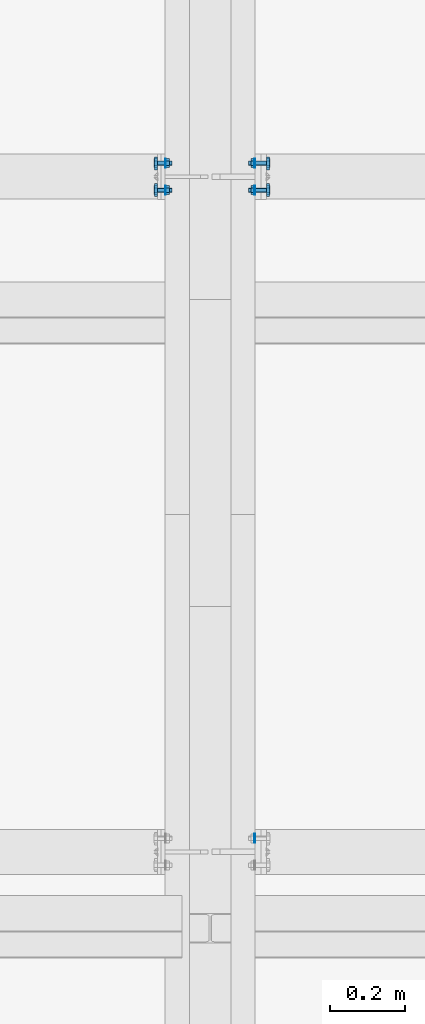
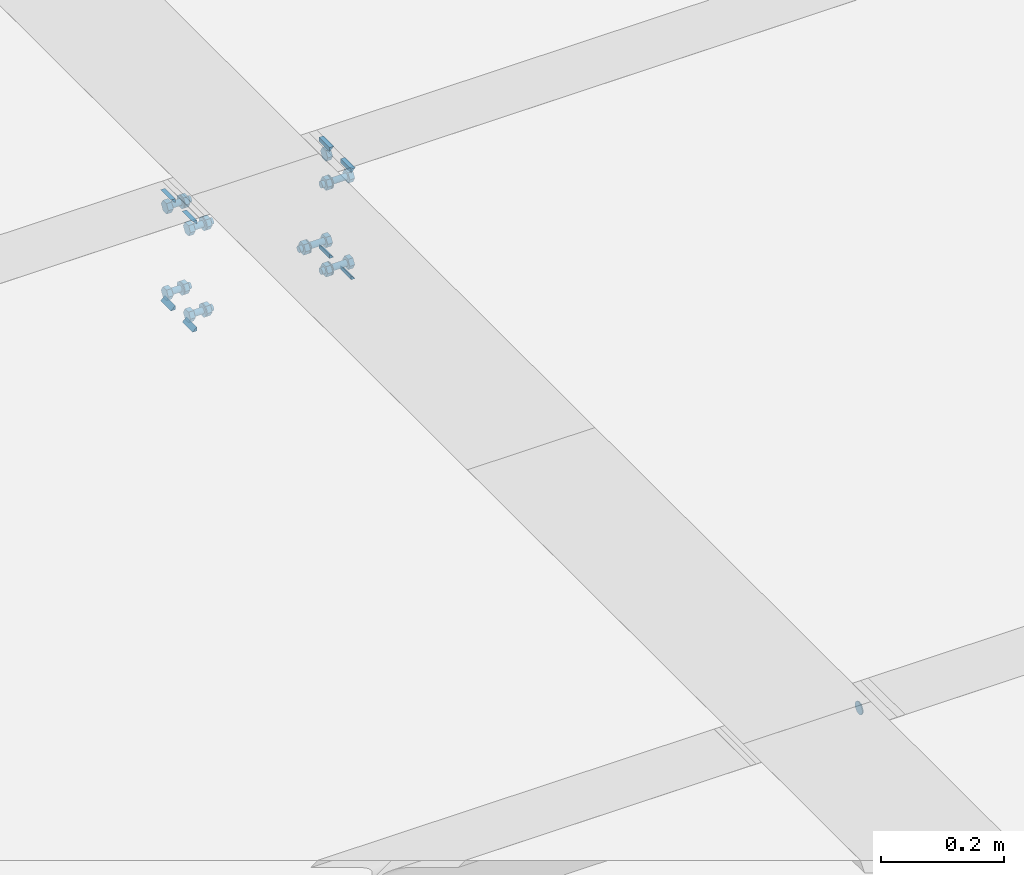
# One storey, part 53 of 66: 30 mechanical fasteners, 16 fasteners.
"""IFC4 building model written with IfcOpenShell, lengths in metres."""

from ifc_helpers import new_model, si_unit, frame, origin_with_axes, place, context, project, spatial, polyline, outline, extrude, type_object, element, save


model = new_model("IFC4")

# Units and contexts
model_context = context("Model", 3, precision=1e-05, world=origin_with_axes())
ifc_project = project(units=[si_unit("LENGTHUNIT", "METRE"), si_unit("AREAUNIT", "SQUARE_METRE"), si_unit("VOLUMEUNIT", "CUBIC_METRE"), si_unit("MASSUNIT", "GRAM", prefix="KILO"), si_unit("TIMEUNIT", "SECOND"), si_unit("PLANEANGLEUNIT", "RADIAN"), si_unit("SOLIDANGLEUNIT", "STERADIAN"), si_unit("THERMODYNAMICTEMPERATUREUNIT", "DEGREE_CELSIUS")], contexts=[model_context])

# Site, building, storey
placement_1 = place(None, origin_with_axes())
site = spatial("IfcSite", under=ifc_project, at=placement_1, Name="Italia", CompositionType="ELEMENT")
building = spatial("IfcBuilding", under=site, at=placement_1, Name="Uffici", CompositionType="ELEMENT")
storey_placement = place(None, frame((0.0, 0.0, 3.299999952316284), z_axis=(0.0, 0.0, 1.0), x_axis=(1.0, 0.0, 0.0)))
storey = spatial("IfcBuildingStorey", under=building, at=storey_placement, Name="Storey 1", CompositionType="ELEMENT", Elevation=3.299999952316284)

# Mechanical fastener
mechanical_fastener_type_1 = type_object("IfcMechanicalFastenerType", Name="Collegamento -004_-005", PredefinedType="BOLT")
placement_2 = place(placement_1, origin_with_axes())
mechanical_fastener_1_placement = place(placement_2, origin_with_axes())
element("IfcMechanicalFastener", 1, at=mechanical_fastener_1_placement, inside=storey, type_object=mechanical_fastener_type_1, Name="Collegamento -004_-005", NominalDiameter=0.024, context=model_context, shape_type="SweptSolid", body=[
    extrude(outline(polyline([(0.0, 0.0), (-0.000408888, -0.00310588), (-0.00160766, -0.00600004), (-0.00351465, -0.00848532), (-0.00599992, -0.0103922), (-0.00889409, -0.0115912), (-0.012, -0.0120001), (-0.0151058, -0.0115912), (-0.018, -0.0103922), (-0.0204853, -0.00848532), (-0.0223923, -0.00600004), (-0.023591, -0.00310588), (-0.0239999, 0.0), (-0.023591, 0.00310588), (-0.0223923, 0.00600004), (-0.0204853, 0.00848532), (-0.018, 0.0103922), (-0.0151058, 0.0115912), (-0.012, 0.0120001), (-0.00889409, 0.0115912), (-0.00599992, 0.0103922), (-0.00351465, 0.00848532), (-0.00160766, 0.00600004), (-0.000408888, 0.00310588), (0.0, 0.0)])), frame((9.573, 1.84467, 3.266), z_axis=(1.0, 0.0, 0.0), x_axis=(0.0, 1.0, 0.0)), (0.0, 0.0, 1.0), 0.00199986),
])

# Fasteners
fastener_type_1 = type_object("IfcFastenerType", Name="Collegamento -014_-013", PredefinedType="WELD")
fastener_1_placement = place(placement_2, origin_with_axes())
element("IfcFastener", 2, at=fastener_1_placement, inside=storey, type_object=fastener_type_1, Name="Collegamento -014_-013", context=model_context, shape_type="SweptSolid", body=[
    extrude(outline(polyline([(0.0, 0.0), (-0.00817299, 0.00792813), (0.0, 0.00792813), (0.0, 0.0)])), frame((9.31505, 3.57528, 3.28232), z_axis=(0.0, -1.0, 0.0), x_axis=(1.0, 0.0, 0.0)), (0.0, 0.0, 1.0), 0.0339999),
])
fastener_type_2 = type_object("IfcFastenerType", Name="Collegamento -014_-013", PredefinedType="WELD")
fastener_2_placement = place(placement_2, origin_with_axes())
element("IfcFastener", 3, at=fastener_2_placement, inside=storey, type_object=fastener_type_2, Name="Collegamento -014_-013", context=model_context, shape_type="SweptSolid", body=[
    extrude(outline(polyline([(0.0, 0.0), (0.00817299, -0.00792813), (0.0, -0.00792813), (0.0, 0.0)])), frame((9.31505, 3.54128, 3.07768), z_axis=(0.0, 1.0, 0.0), x_axis=(-1.0, 0.0, 0.0)), (0.0, 0.0, 1.0), 0.0339999),
])
fastener_type_3 = type_object("IfcFastenerType", Name="Collegamento -014_-013", PredefinedType="WELD")
fastener_3_placement = place(placement_2, origin_with_axes())
element("IfcFastener", 4, at=fastener_3_placement, inside=storey, type_object=fastener_type_3, Name="Collegamento -014_-013", context=model_context, shape_type="SweptSolid", body=[
    extrude(outline(polyline([(0.0, 0.0), (0.00817299, -0.00792813), (0.0, -0.00792813), (0.0, 0.0)])), frame((9.31505, 3.61138, 3.07768), z_axis=(0.0, 1.0, 0.0), x_axis=(-1.0, 0.0, 0.0)), (0.0, 0.0, 1.0), 0.0339999),
])
fastener_type_4 = type_object("IfcFastenerType", Name="Collegamento -014_-013", PredefinedType="WELD")
fastener_4_placement = place(placement_2, origin_with_axes())
element("IfcFastener", 5, at=fastener_4_placement, inside=storey, type_object=fastener_type_4, Name="Collegamento -014_-013", context=model_context, shape_type="SweptSolid", body=[
    extrude(outline(polyline([(0.0, 0.0), (-0.00817299, 0.00792813), (0.0, 0.00792813), (0.0, 0.0)])), frame((9.31505, 3.64538, 3.28232), z_axis=(0.0, -1.0, 0.0), x_axis=(1.0, 0.0, 0.0)), (0.0, 0.0, 1.0), 0.0339999),
])
fastener_type_5 = type_object("IfcFastenerType", Name="Collegamento -014_-013", PredefinedType="WELD")
fastener_5_placement = place(placement_2, origin_with_axes())
element("IfcFastener", 6, at=fastener_5_placement, inside=storey, type_object=fastener_type_5, Name="Collegamento -014_-013", context=model_context, shape_type="SweptSolid", body=[
    extrude(outline(polyline([(0.0, 0.0), (-0.00817299, 0.00792813), (0.0, 0.00792813), (0.0, 0.0)])), frame((9.31505, 3.57528, 3.28232), z_axis=(0.0, -1.0, 0.0), x_axis=(1.0, 0.0, 0.0)), (0.0, 0.0, 1.0), 0.0339999),
])
fastener_type_6 = type_object("IfcFastenerType", Name="Collegamento -014_-013", PredefinedType="WELD")
fastener_6_placement = place(placement_2, origin_with_axes())
element("IfcFastener", 7, at=fastener_6_placement, inside=storey, type_object=fastener_type_6, Name="Collegamento -014_-013", context=model_context, shape_type="SweptSolid", body=[
    extrude(outline(polyline([(0.0, 0.0), (0.00817299, -0.00792813), (0.0, -0.00792813), (0.0, 0.0)])), frame((9.31505, 3.54128, 3.07768), z_axis=(0.0, 1.0, 0.0), x_axis=(-1.0, 0.0, 0.0)), (0.0, 0.0, 1.0), 0.0339999),
])
fastener_type_7 = type_object("IfcFastenerType", Name="Collegamento -014_-013", PredefinedType="WELD")
fastener_7_placement = place(placement_2, origin_with_axes())
element("IfcFastener", 8, at=fastener_7_placement, inside=storey, type_object=fastener_type_7, Name="Collegamento -014_-013", context=model_context, shape_type="SweptSolid", body=[
    extrude(outline(polyline([(0.0, 0.0), (0.00817299, -0.00792813), (0.0, -0.00792813), (0.0, 0.0)])), frame((9.31505, 3.61138, 3.07768), z_axis=(0.0, 1.0, 0.0), x_axis=(-1.0, 0.0, 0.0)), (0.0, 0.0, 1.0), 0.0339999),
])
fastener_type_8 = type_object("IfcFastenerType", Name="Collegamento -014_-013", PredefinedType="WELD")
fastener_8_placement = place(placement_2, origin_with_axes())
element("IfcFastener", 9, at=fastener_8_placement, inside=storey, type_object=fastener_type_8, Name="Collegamento -014_-013", context=model_context, shape_type="SweptSolid", body=[
    extrude(outline(polyline([(0.0, 0.0), (-0.00817299, 0.00792813), (0.0, 0.00792813), (0.0, 0.0)])), frame((9.31505, 3.64538, 3.28232), z_axis=(0.0, -1.0, 0.0), x_axis=(1.0, 0.0, 0.0)), (0.0, 0.0, 1.0), 0.0339999),
])

# Mechanical fasteners
mechanical_fastener_type_2 = type_object("IfcMechanicalFastenerType", Name="Collegamento -014_-013", PredefinedType="BOLT")
mechanical_fastener_2_placement = place(placement_2, origin_with_axes())
element("IfcMechanicalFastener", 10, at=mechanical_fastener_2_placement, inside=storey, type_object=mechanical_fastener_type_2, Name="Collegamento -014_-013", NominalDiameter=0.0119999, context=model_context, shape_type="SweptSolid", body=[
    extrude(outline(polyline([(0.0, 0.0), (-0.0120001, 0.0), (-0.0180001, 0.0103924), (-0.0120001, 0.0207846), (0.0, 0.0207846), (0.00600004, 0.0103924), (0.0, 0.0)])), frame((9.315, 3.62333, 3.08361), z_axis=(-1.0, 0.0, 0.0), x_axis=(0.0, -1.0, 0.0)), (0.0, 0.0, 1.0), 0.00959969),
])
mechanical_fastener_type_3 = type_object("IfcMechanicalFastenerType", Name="Collegamento -014_-013", PredefinedType="BOLT")
mechanical_fastener_3_placement = place(placement_2, origin_with_axes())
element("IfcMechanicalFastener", 11, at=mechanical_fastener_3_placement, inside=storey, type_object=mechanical_fastener_type_3, Name="Collegamento -014_-013", NominalDiameter=0.012, context=model_context, shape_type="SweptSolid", body=[
    extrude(outline(polyline([(0.0, 0.0), (-0.000204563, -0.00155282), (-0.000803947, -0.00300002), (-0.00175738, -0.00424266), (-0.00300002, -0.00519609), (-0.00444722, -0.00579548), (-0.00600004, -0.00600004), (-0.00755286, -0.00579548), (-0.00900006, -0.00519609), (-0.0102427, -0.00424266), (-0.0111961, -0.00300002), (-0.0117955, -0.00155282), (-0.0120001, 0.0), (-0.0117955, 0.00155282), (-0.0111961, 0.00300002), (-0.0102427, 0.00424266), (-0.00900006, 0.00519609), (-0.00755286, 0.00579548), (-0.00600004, 0.00600004), (-0.00444722, 0.00579548), (-0.00300002, 0.00519609), (-0.00175738, 0.00424266), (-0.000803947, 0.00300002), (-0.000204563, 0.00155282), (0.0, 0.0)])), frame((9.353, 3.62333, 3.094), z_axis=(-1.0, 0.0, 0.0), x_axis=(0.0, -1.0, 0.0)), (0.0, 0.0, 1.0), 0.0380001),
])
mechanical_fastener_type_4 = type_object("IfcMechanicalFastenerType", Name="Collegamento -014_-013", PredefinedType="BOLT")
mechanical_fastener_4_placement = place(placement_2, origin_with_axes())
element("IfcMechanicalFastener", 12, at=mechanical_fastener_4_placement, inside=storey, type_object=mechanical_fastener_type_4, Name="Collegamento -014_-013", NominalDiameter=0.0119999, context=model_context, shape_type="SweptSolid", body=[
    extrude(outline(polyline([(0.0, 0.0), (-0.0120001, 0.0), (-0.0180001, 0.0103924), (-0.0120001, 0.0207846), (0.0, 0.0207846), (0.00600004, 0.0103924), (0.0, 0.0)])), frame((9.3466, 3.62333, 3.08361), z_axis=(-1.0, 0.0, 0.0), x_axis=(0.0, -1.0, 0.0)), (0.0, 0.0, 1.0), 0.00959969),
])
mechanical_fastener_type_5 = type_object("IfcMechanicalFastenerType", Name="Collegamento -014_-013", PredefinedType="BOLT")
mechanical_fastener_5_placement = place(placement_2, origin_with_axes())
element("IfcMechanicalFastener", 13, at=mechanical_fastener_5_placement, inside=storey, type_object=mechanical_fastener_type_5, Name="Collegamento -014_-013", NominalDiameter=0.024, context=model_context, shape_type="SweptSolid", body=[
    extrude(outline(polyline([(0.0, 0.0), (-0.000408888, -0.00310588), (-0.00160789, -0.00600004), (-0.00351477, -0.00848532), (-0.00600004, -0.0103922), (-0.00889421, -0.0115912), (-0.0120001, -0.0120001), (-0.015106, -0.0115912), (-0.0180001, -0.0103922), (-0.0204854, -0.00848532), (-0.0223923, -0.00600004), (-0.0235913, -0.00310588), (-0.0240002, 0.0), (-0.0235913, 0.00310588), (-0.0223923, 0.00600004), (-0.0204854, 0.00848532), (-0.0180001, 0.0103922), (-0.015106, 0.0115912), (-0.0120001, 0.0120001), (-0.00889421, 0.0115912), (-0.00600004, 0.0103922), (-0.00351477, 0.00848532), (-0.00160789, 0.00600004), (-0.000408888, 0.00310588), (0.0, 0.0)])), frame((9.337, 3.61733, 3.094), z_axis=(-1.0, 0.0, 0.0), x_axis=(0.0, -1.0, 0.0)), (0.0, 0.0, 1.0), 0.00199986),
])
mechanical_fastener_type_6 = type_object("IfcMechanicalFastenerType", Name="Collegamento -014_-013", PredefinedType="BOLT")
mechanical_fastener_6_placement = place(placement_2, origin_with_axes())
element("IfcMechanicalFastener", 14, at=mechanical_fastener_6_placement, inside=storey, type_object=mechanical_fastener_type_6, Name="Collegamento -014_-013", NominalDiameter=0.0119999, context=model_context, shape_type="SweptSolid", body=[
    extrude(outline(polyline([(0.0, 0.0), (-0.0120001, 0.0), (-0.0180001, 0.0103924), (-0.0120001, 0.0207846), (0.0, 0.0207846), (0.00600004, 0.0103924), (0.0, 0.0)])), frame((9.315, 3.55133, 3.08361), z_axis=(-1.0, 0.0, 0.0), x_axis=(0.0, -1.0, 0.0)), (0.0, 0.0, 1.0), 0.00959969),
])
mechanical_fastener_type_7 = type_object("IfcMechanicalFastenerType", Name="Collegamento -014_-013", PredefinedType="BOLT")
mechanical_fastener_7_placement = place(placement_2, origin_with_axes())
element("IfcMechanicalFastener", 15, at=mechanical_fastener_7_placement, inside=storey, type_object=mechanical_fastener_type_7, Name="Collegamento -014_-013", NominalDiameter=0.012, context=model_context, shape_type="SweptSolid", body=[
    extrude(outline(polyline([(0.0, 0.0), (-0.000204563, -0.00155282), (-0.000803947, -0.00300002), (-0.00175738, -0.00424266), (-0.00300002, -0.00519609), (-0.00444722, -0.00579548), (-0.00600004, -0.00600004), (-0.00755286, -0.00579548), (-0.00900006, -0.00519609), (-0.0102427, -0.00424266), (-0.0111961, -0.00300002), (-0.0117955, -0.00155282), (-0.0120001, 0.0), (-0.0117955, 0.00155282), (-0.0111961, 0.00300002), (-0.0102427, 0.00424266), (-0.00900006, 0.00519609), (-0.00755286, 0.00579548), (-0.00600004, 0.00600004), (-0.00444722, 0.00579548), (-0.00300002, 0.00519609), (-0.00175738, 0.00424266), (-0.000803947, 0.00300002), (-0.000204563, 0.00155282), (0.0, 0.0)])), frame((9.353, 3.55133, 3.094), z_axis=(-1.0, 0.0, 0.0), x_axis=(0.0, -1.0, 0.0)), (0.0, 0.0, 1.0), 0.0380001),
])
mechanical_fastener_type_8 = type_object("IfcMechanicalFastenerType", Name="Collegamento -014_-013", PredefinedType="BOLT")
mechanical_fastener_8_placement = place(placement_2, origin_with_axes())
element("IfcMechanicalFastener", 16, at=mechanical_fastener_8_placement, inside=storey, type_object=mechanical_fastener_type_8, Name="Collegamento -014_-013", NominalDiameter=0.0119999, context=model_context, shape_type="SweptSolid", body=[
    extrude(outline(polyline([(0.0, 0.0), (-0.0120001, 0.0), (-0.0180001, 0.0103924), (-0.0120001, 0.0207846), (0.0, 0.0207846), (0.00600004, 0.0103924), (0.0, 0.0)])), frame((9.3466, 3.55133, 3.08361), z_axis=(-1.0, 0.0, 0.0), x_axis=(0.0, -1.0, 0.0)), (0.0, 0.0, 1.0), 0.00959969),
])
mechanical_fastener_type_9 = type_object("IfcMechanicalFastenerType", Name="Collegamento -014_-013", PredefinedType="BOLT")
mechanical_fastener_9_placement = place(placement_2, origin_with_axes())
element("IfcMechanicalFastener", 17, at=mechanical_fastener_9_placement, inside=storey, type_object=mechanical_fastener_type_9, Name="Collegamento -014_-013", NominalDiameter=0.024, context=model_context, shape_type="SweptSolid", body=[
    extrude(outline(polyline([(0.0, 0.0), (-0.000408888, -0.00310588), (-0.00160789, -0.00600004), (-0.00351477, -0.00848532), (-0.00600004, -0.0103922), (-0.00889421, -0.0115912), (-0.0120001, -0.0120001), (-0.015106, -0.0115912), (-0.0180001, -0.0103922), (-0.0204854, -0.00848532), (-0.0223923, -0.00600004), (-0.0235913, -0.00310588), (-0.0240002, 0.0), (-0.0235913, 0.00310588), (-0.0223923, 0.00600004), (-0.0204854, 0.00848532), (-0.0180001, 0.0103922), (-0.015106, 0.0115912), (-0.0120001, 0.0120001), (-0.00889421, 0.0115912), (-0.00600004, 0.0103922), (-0.00351477, 0.00848532), (-0.00160789, 0.00600004), (-0.000408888, 0.00310588), (0.0, 0.0)])), frame((9.337, 3.54533, 3.094), z_axis=(-1.0, 0.0, 0.0), x_axis=(0.0, -1.0, 0.0)), (0.0, 0.0, 1.0), 0.00199986),
])
mechanical_fastener_type_10 = type_object("IfcMechanicalFastenerType", Name="Collegamento -014_-013", PredefinedType="BOLT")
mechanical_fastener_10_placement = place(placement_2, origin_with_axes())
element("IfcMechanicalFastener", 18, at=mechanical_fastener_10_placement, inside=storey, type_object=mechanical_fastener_type_10, Name="Collegamento -014_-013", NominalDiameter=0.0119999, context=model_context, shape_type="SweptSolid", body=[
    extrude(outline(polyline([(0.0, 0.0), (-0.0120001, 0.0), (-0.0180001, 0.0103922), (-0.0120001, 0.0207846), (0.0, 0.0207846), (0.00600004, 0.0103922), (0.0, 0.0)])), frame((9.315, 3.62333, 3.25561), z_axis=(-1.0, 0.0, 0.0), x_axis=(0.0, -1.0, 0.0)), (0.0, 0.0, 1.0), 0.00959969),
])
mechanical_fastener_type_11 = type_object("IfcMechanicalFastenerType", Name="Collegamento -014_-013", PredefinedType="BOLT")
mechanical_fastener_11_placement = place(placement_2, origin_with_axes())
element("IfcMechanicalFastener", 19, at=mechanical_fastener_11_placement, inside=storey, type_object=mechanical_fastener_type_11, Name="Collegamento -014_-013", NominalDiameter=0.012, context=model_context, shape_type="SweptSolid", body=[
    extrude(outline(polyline([(0.0, 0.0), (-0.000204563, -0.00155282), (-0.000803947, -0.00300002), (-0.00175738, -0.00424266), (-0.00300002, -0.00519609), (-0.00444722, -0.00579548), (-0.00600004, -0.00600004), (-0.00755286, -0.00579548), (-0.00900006, -0.00519609), (-0.0102427, -0.00424266), (-0.0111961, -0.00300002), (-0.0117955, -0.00155282), (-0.0120001, 0.0), (-0.0117955, 0.00155282), (-0.0111961, 0.00300002), (-0.0102427, 0.00424266), (-0.00900006, 0.00519609), (-0.00755286, 0.00579548), (-0.00600004, 0.00600004), (-0.00444722, 0.00579548), (-0.00300002, 0.00519609), (-0.00175738, 0.00424266), (-0.000803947, 0.00300002), (-0.000204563, 0.00155282), (0.0, 0.0)])), frame((9.353, 3.62333, 3.266), z_axis=(-1.0, 0.0, 0.0), x_axis=(0.0, -1.0, 0.0)), (0.0, 0.0, 1.0), 0.0380001),
])
mechanical_fastener_type_12 = type_object("IfcMechanicalFastenerType", Name="Collegamento -014_-013", PredefinedType="BOLT")
mechanical_fastener_12_placement = place(placement_2, origin_with_axes())
element("IfcMechanicalFastener", 20, at=mechanical_fastener_12_placement, inside=storey, type_object=mechanical_fastener_type_12, Name="Collegamento -014_-013", NominalDiameter=0.0119999, context=model_context, shape_type="SweptSolid", body=[
    extrude(outline(polyline([(0.0, 0.0), (-0.0120001, 0.0), (-0.0180001, 0.0103922), (-0.0120001, 0.0207846), (0.0, 0.0207846), (0.00600004, 0.0103922), (0.0, 0.0)])), frame((9.3466, 3.62333, 3.25561), z_axis=(-1.0, 0.0, 0.0), x_axis=(0.0, -1.0, 0.0)), (0.0, 0.0, 1.0), 0.00959969),
])
mechanical_fastener_type_13 = type_object("IfcMechanicalFastenerType", Name="Collegamento -014_-013", PredefinedType="BOLT")
mechanical_fastener_13_placement = place(placement_2, origin_with_axes())
element("IfcMechanicalFastener", 21, at=mechanical_fastener_13_placement, inside=storey, type_object=mechanical_fastener_type_13, Name="Collegamento -014_-013", NominalDiameter=0.024, context=model_context, shape_type="SweptSolid", body=[
    extrude(outline(polyline([(0.0, 0.0), (-0.000408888, -0.00310588), (-0.00160789, -0.00600004), (-0.00351477, -0.00848532), (-0.00600004, -0.0103922), (-0.00889421, -0.0115912), (-0.0120001, -0.0120001), (-0.015106, -0.0115912), (-0.0180001, -0.0103922), (-0.0204854, -0.00848532), (-0.0223923, -0.00600004), (-0.0235913, -0.00310588), (-0.0240002, 0.0), (-0.0235913, 0.00310588), (-0.0223923, 0.00600004), (-0.0204854, 0.00848532), (-0.0180001, 0.0103922), (-0.015106, 0.0115912), (-0.0120001, 0.0120001), (-0.00889421, 0.0115912), (-0.00600004, 0.0103922), (-0.00351477, 0.00848532), (-0.00160789, 0.00600004), (-0.000408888, 0.00310588), (0.0, 0.0)])), frame((9.337, 3.61733, 3.266), z_axis=(-1.0, 0.0, 0.0), x_axis=(0.0, -1.0, 0.0)), (0.0, 0.0, 1.0), 0.00199986),
])
mechanical_fastener_type_14 = type_object("IfcMechanicalFastenerType", Name="Collegamento -014_-013", PredefinedType="BOLT")
mechanical_fastener_14_placement = place(placement_2, origin_with_axes())
element("IfcMechanicalFastener", 22, at=mechanical_fastener_14_placement, inside=storey, type_object=mechanical_fastener_type_14, Name="Collegamento -014_-013", NominalDiameter=0.0119999, context=model_context, shape_type="SweptSolid", body=[
    extrude(outline(polyline([(0.0, 0.0), (-0.0120001, 0.0), (-0.0180001, 0.0103922), (-0.0120001, 0.0207846), (0.0, 0.0207846), (0.00600004, 0.0103922), (0.0, 0.0)])), frame((9.315, 3.55133, 3.25561), z_axis=(-1.0, 0.0, 0.0), x_axis=(0.0, -1.0, 0.0)), (0.0, 0.0, 1.0), 0.00959969),
])
mechanical_fastener_type_15 = type_object("IfcMechanicalFastenerType", Name="Collegamento -014_-013", PredefinedType="BOLT")
mechanical_fastener_15_placement = place(placement_2, origin_with_axes())
element("IfcMechanicalFastener", 23, at=mechanical_fastener_15_placement, inside=storey, type_object=mechanical_fastener_type_15, Name="Collegamento -014_-013", NominalDiameter=0.012, context=model_context, shape_type="SweptSolid", body=[
    extrude(outline(polyline([(0.0, 0.0), (-0.000204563, -0.00155282), (-0.000803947, -0.00300002), (-0.00175738, -0.00424266), (-0.00300002, -0.00519609), (-0.00444722, -0.00579548), (-0.00600004, -0.00600004), (-0.00755286, -0.00579548), (-0.00900006, -0.00519609), (-0.0102427, -0.00424266), (-0.0111961, -0.00300002), (-0.0117955, -0.00155282), (-0.0120001, 0.0), (-0.0117955, 0.00155282), (-0.0111961, 0.00300002), (-0.0102427, 0.00424266), (-0.00900006, 0.00519609), (-0.00755286, 0.00579548), (-0.00600004, 0.00600004), (-0.00444722, 0.00579548), (-0.00300002, 0.00519609), (-0.00175738, 0.00424266), (-0.000803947, 0.00300002), (-0.000204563, 0.00155282), (0.0, 0.0)])), frame((9.353, 3.55133, 3.266), z_axis=(-1.0, 0.0, 0.0), x_axis=(0.0, -1.0, 0.0)), (0.0, 0.0, 1.0), 0.0380001),
])
mechanical_fastener_type_16 = type_object("IfcMechanicalFastenerType", Name="Collegamento -014_-013", PredefinedType="BOLT")
mechanical_fastener_16_placement = place(placement_2, origin_with_axes())
element("IfcMechanicalFastener", 24, at=mechanical_fastener_16_placement, inside=storey, type_object=mechanical_fastener_type_16, Name="Collegamento -014_-013", NominalDiameter=0.0119999, context=model_context, shape_type="SweptSolid", body=[
    extrude(outline(polyline([(0.0, 0.0), (-0.0120001, 0.0), (-0.0180001, 0.0103922), (-0.0120001, 0.0207846), (0.0, 0.0207846), (0.00600004, 0.0103922), (0.0, 0.0)])), frame((9.3466, 3.55133, 3.25561), z_axis=(-1.0, 0.0, 0.0), x_axis=(0.0, -1.0, 0.0)), (0.0, 0.0, 1.0), 0.00959969),
])
mechanical_fastener_type_17 = type_object("IfcMechanicalFastenerType", Name="Collegamento -014_-013", PredefinedType="BOLT")
mechanical_fastener_17_placement = place(placement_2, origin_with_axes())
element("IfcMechanicalFastener", 25, at=mechanical_fastener_17_placement, inside=storey, type_object=mechanical_fastener_type_17, Name="Collegamento -014_-013", NominalDiameter=0.024, context=model_context, shape_type="SweptSolid", body=[
    extrude(outline(polyline([(0.0, 0.0), (-0.000408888, -0.00310588), (-0.00160789, -0.00600004), (-0.00351477, -0.00848532), (-0.00600004, -0.0103922), (-0.00889421, -0.0115912), (-0.0120001, -0.0120001), (-0.015106, -0.0115912), (-0.0180001, -0.0103922), (-0.0204854, -0.00848532), (-0.0223923, -0.00600004), (-0.0235913, -0.00310588), (-0.0240002, 0.0), (-0.0235913, 0.00310588), (-0.0223923, 0.00600004), (-0.0204854, 0.00848532), (-0.0180001, 0.0103922), (-0.015106, 0.0115912), (-0.0120001, 0.0120001), (-0.00889421, 0.0115912), (-0.00600004, 0.0103922), (-0.00351477, 0.00848532), (-0.00160789, 0.00600004), (-0.000408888, 0.00310588), (0.0, 0.0)])), frame((9.337, 3.54533, 3.266), z_axis=(-1.0, 0.0, 0.0), x_axis=(0.0, -1.0, 0.0)), (0.0, 0.0, 1.0), 0.00199986),
])

# Fasteners
fastener_type_9 = type_object("IfcFastenerType", Name="Collegamento -014_-015", PredefinedType="WELD")
fastener_9_placement = place(placement_2, origin_with_axes())
element("IfcFastener", 26, at=fastener_9_placement, inside=storey, type_object=fastener_type_9, Name="Collegamento -014_-015", context=model_context, shape_type="SweptSolid", body=[
    extrude(outline(polyline([(0.0, 0.0), (-0.00817299, 0.00792813), (0.0, 0.00792813), (0.0, 0.0)])), frame((9.60495, 3.54128, 3.28232), z_axis=(0.0, 1.0, 0.0), x_axis=(-1.0, 0.0, 0.0)), (0.0, 0.0, 1.0), 0.0339999),
])
fastener_type_10 = type_object("IfcFastenerType", Name="Collegamento -014_-015", PredefinedType="WELD")
fastener_10_placement = place(placement_2, origin_with_axes())
element("IfcFastener", 27, at=fastener_10_placement, inside=storey, type_object=fastener_type_10, Name="Collegamento -014_-015", context=model_context, shape_type="SweptSolid", body=[
    extrude(outline(polyline([(0.0, 0.0), (0.00817299, -0.00792813), (0.0, -0.00792813), (0.0, 0.0)])), frame((9.60495, 3.57528, 3.07768), z_axis=(0.0, -1.0, 0.0), x_axis=(1.0, 0.0, 0.0)), (0.0, 0.0, 1.0), 0.0339999),
])
fastener_type_11 = type_object("IfcFastenerType", Name="Collegamento -014_-015", PredefinedType="WELD")
fastener_11_placement = place(placement_2, origin_with_axes())
element("IfcFastener", 28, at=fastener_11_placement, inside=storey, type_object=fastener_type_11, Name="Collegamento -014_-015", context=model_context, shape_type="SweptSolid", body=[
    extrude(outline(polyline([(0.0, 0.0), (0.00817299, -0.00792813), (0.0, -0.00792813), (0.0, 0.0)])), frame((9.60495, 3.64538, 3.07768), z_axis=(0.0, -1.0, 0.0), x_axis=(1.0, 0.0, 0.0)), (0.0, 0.0, 1.0), 0.0339999),
])
fastener_type_12 = type_object("IfcFastenerType", Name="Collegamento -014_-015", PredefinedType="WELD")
fastener_12_placement = place(placement_2, origin_with_axes())
element("IfcFastener", 29, at=fastener_12_placement, inside=storey, type_object=fastener_type_12, Name="Collegamento -014_-015", context=model_context, shape_type="SweptSolid", body=[
    extrude(outline(polyline([(0.0, 0.0), (-0.00817299, 0.00792813), (0.0, 0.00792813), (0.0, 0.0)])), frame((9.60495, 3.61138, 3.28232), z_axis=(0.0, 1.0, 0.0), x_axis=(-1.0, 0.0, 0.0)), (0.0, 0.0, 1.0), 0.0339999),
])
fastener_type_13 = type_object("IfcFastenerType", Name="Collegamento -014_-015", PredefinedType="WELD")
fastener_13_placement = place(placement_2, origin_with_axes())
element("IfcFastener", 30, at=fastener_13_placement, inside=storey, type_object=fastener_type_13, Name="Collegamento -014_-015", context=model_context, shape_type="SweptSolid", body=[
    extrude(outline(polyline([(0.0, 0.0), (-0.00817299, 0.00792813), (0.0, 0.00792813), (0.0, 0.0)])), frame((9.60495, 3.54128, 3.28232), z_axis=(0.0, 1.0, 0.0), x_axis=(-1.0, 0.0, 0.0)), (0.0, 0.0, 1.0), 0.0339999),
])
fastener_type_14 = type_object("IfcFastenerType", Name="Collegamento -014_-015", PredefinedType="WELD")
fastener_14_placement = place(placement_2, origin_with_axes())
element("IfcFastener", 31, at=fastener_14_placement, inside=storey, type_object=fastener_type_14, Name="Collegamento -014_-015", context=model_context, shape_type="SweptSolid", body=[
    extrude(outline(polyline([(0.0, 0.0), (0.00817299, -0.00792813), (0.0, -0.00792813), (0.0, 0.0)])), frame((9.60495, 3.57528, 3.07768), z_axis=(0.0, -1.0, 0.0), x_axis=(1.0, 0.0, 0.0)), (0.0, 0.0, 1.0), 0.0339999),
])
fastener_type_15 = type_object("IfcFastenerType", Name="Collegamento -014_-015", PredefinedType="WELD")
fastener_15_placement = place(placement_2, origin_with_axes())
element("IfcFastener", 32, at=fastener_15_placement, inside=storey, type_object=fastener_type_15, Name="Collegamento -014_-015", context=model_context, shape_type="SweptSolid", body=[
    extrude(outline(polyline([(0.0, 0.0), (0.00817299, -0.00792813), (0.0, -0.00792813), (0.0, 0.0)])), frame((9.60495, 3.64538, 3.07768), z_axis=(0.0, -1.0, 0.0), x_axis=(1.0, 0.0, 0.0)), (0.0, 0.0, 1.0), 0.0339999),
])
fastener_type_16 = type_object("IfcFastenerType", Name="Collegamento -014_-015", PredefinedType="WELD")
fastener_16_placement = place(placement_2, origin_with_axes())
element("IfcFastener", 33, at=fastener_16_placement, inside=storey, type_object=fastener_type_16, Name="Collegamento -014_-015", context=model_context, shape_type="SweptSolid", body=[
    extrude(outline(polyline([(0.0, 0.0), (-0.00817299, 0.00792813), (0.0, 0.00792813), (0.0, 0.0)])), frame((9.60495, 3.61138, 3.28232), z_axis=(0.0, 1.0, 0.0), x_axis=(-1.0, 0.0, 0.0)), (0.0, 0.0, 1.0), 0.0339999),
])

# Mechanical fasteners
mechanical_fastener_type_18 = type_object("IfcMechanicalFastenerType", Name="Collegamento -014_-015", PredefinedType="BOLT")
mechanical_fastener_18_placement = place(placement_2, origin_with_axes())
element("IfcMechanicalFastener", 34, at=mechanical_fastener_18_placement, inside=storey, type_object=mechanical_fastener_type_18, Name="Collegamento -014_-015", NominalDiameter=0.0119999, context=model_context, shape_type="SweptSolid", body=[
    extrude(outline(polyline([(0.0, 0.0), (-0.0120001, 0.0), (-0.0180001, 0.0103924), (-0.0120001, 0.0207846), (0.0, 0.0207846), (0.00600004, 0.0103924), (0.0, 0.0)])), frame((9.605, 3.56333, 3.08361), z_axis=(1.0, 0.0, 0.0), x_axis=(0.0, 1.0, 0.0)), (0.0, 0.0, 1.0), 0.00960064),
])
mechanical_fastener_type_19 = type_object("IfcMechanicalFastenerType", Name="Collegamento -014_-015", PredefinedType="BOLT")
mechanical_fastener_19_placement = place(placement_2, origin_with_axes())
element("IfcMechanicalFastener", 35, at=mechanical_fastener_19_placement, inside=storey, type_object=mechanical_fastener_type_19, Name="Collegamento -014_-015", NominalDiameter=0.012, context=model_context, shape_type="SweptSolid", body=[
    extrude(outline(polyline([(0.0, 0.0), (-0.000204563, -0.00155282), (-0.000803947, -0.00300002), (-0.00175738, -0.00424266), (-0.00300002, -0.00519609), (-0.00444722, -0.00579548), (-0.00600004, -0.00600004), (-0.00755286, -0.00579548), (-0.00900006, -0.00519609), (-0.0102427, -0.00424266), (-0.0111961, -0.00300002), (-0.0117955, -0.00155282), (-0.0120001, 0.0), (-0.0117955, 0.00155282), (-0.0111961, 0.00300002), (-0.0102427, 0.00424266), (-0.00900006, 0.00519609), (-0.00755286, 0.00579548), (-0.00600004, 0.00600004), (-0.00444722, 0.00579548), (-0.00300002, 0.00519609), (-0.00175738, 0.00424266), (-0.000803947, 0.00300002), (-0.000204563, 0.00155282), (0.0, 0.0)])), frame((9.557, 3.56333, 3.094), z_axis=(1.0, 0.0, 0.0), x_axis=(0.0, 1.0, 0.0)), (0.0, 0.0, 1.0), 0.0479994),
])
mechanical_fastener_type_20 = type_object("IfcMechanicalFastenerType", Name="Collegamento -014_-015", PredefinedType="BOLT")
mechanical_fastener_20_placement = place(placement_2, origin_with_axes())
element("IfcMechanicalFastener", 36, at=mechanical_fastener_20_placement, inside=storey, type_object=mechanical_fastener_type_20, Name="Collegamento -014_-015", NominalDiameter=0.0119999, context=model_context, shape_type="SweptSolid", body=[
    extrude(outline(polyline([(0.0, 0.0), (-0.0120001, 0.0), (-0.0180001, 0.0103924), (-0.0120001, 0.0207846), (0.0, 0.0207846), (0.00600004, 0.0103924), (0.0, 0.0)])), frame((9.5634, 3.56333, 3.08361), z_axis=(1.0, 0.0, 0.0), x_axis=(0.0, 1.0, 0.0)), (0.0, 0.0, 1.0), 0.00959969),
])
mechanical_fastener_type_21 = type_object("IfcMechanicalFastenerType", Name="Collegamento -014_-015", PredefinedType="BOLT")
mechanical_fastener_21_placement = place(placement_2, origin_with_axes())
element("IfcMechanicalFastener", 37, at=mechanical_fastener_21_placement, inside=storey, type_object=mechanical_fastener_type_21, Name="Collegamento -014_-015", NominalDiameter=0.024, context=model_context, shape_type="SweptSolid", body=[
    extrude(outline(polyline([(0.0, 0.0), (-0.000408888, -0.00310588), (-0.00160789, -0.00600004), (-0.00351477, -0.00848532), (-0.00600004, -0.0103922), (-0.00889421, -0.0115912), (-0.0120001, -0.0120001), (-0.015106, -0.0115912), (-0.0180001, -0.0103922), (-0.0204854, -0.00848532), (-0.0223923, -0.00600004), (-0.0235913, -0.00310588), (-0.0240002, 0.0), (-0.0235913, 0.00310588), (-0.0223923, 0.00600004), (-0.0204854, 0.00848532), (-0.0180001, 0.0103922), (-0.015106, 0.0115912), (-0.0120001, 0.0120001), (-0.00889421, 0.0115912), (-0.00600004, 0.0103922), (-0.00351477, 0.00848532), (-0.00160789, 0.00600004), (-0.000408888, 0.00310588), (0.0, 0.0)])), frame((9.573, 3.56933, 3.094), z_axis=(1.0, 0.0, 0.0), x_axis=(0.0, 1.0, 0.0)), (0.0, 0.0, 1.0), 0.00199986),
])
mechanical_fastener_type_22 = type_object("IfcMechanicalFastenerType", Name="Collegamento -014_-015", PredefinedType="BOLT")
mechanical_fastener_22_placement = place(placement_2, origin_with_axes())
element("IfcMechanicalFastener", 38, at=mechanical_fastener_22_placement, inside=storey, type_object=mechanical_fastener_type_22, Name="Collegamento -014_-015", NominalDiameter=0.0119999, context=model_context, shape_type="SweptSolid", body=[
    extrude(outline(polyline([(0.0, 0.0), (-0.0120001, 0.0), (-0.0180001, 0.0103924), (-0.0120001, 0.0207846), (0.0, 0.0207846), (0.00600004, 0.0103924), (0.0, 0.0)])), frame((9.605, 3.63533, 3.08361), z_axis=(1.0, 0.0, 0.0), x_axis=(0.0, 1.0, 0.0)), (0.0, 0.0, 1.0), 0.00960064),
])
mechanical_fastener_type_23 = type_object("IfcMechanicalFastenerType", Name="Collegamento -014_-015", PredefinedType="BOLT")
mechanical_fastener_23_placement = place(placement_2, origin_with_axes())
element("IfcMechanicalFastener", 39, at=mechanical_fastener_23_placement, inside=storey, type_object=mechanical_fastener_type_23, Name="Collegamento -014_-015", NominalDiameter=0.012, context=model_context, shape_type="SweptSolid", body=[
    extrude(outline(polyline([(0.0, 0.0), (-0.000204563, -0.00155282), (-0.000803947, -0.00300002), (-0.00175738, -0.00424266), (-0.00300002, -0.00519609), (-0.00444722, -0.00579548), (-0.00600004, -0.00600004), (-0.00755286, -0.00579548), (-0.00900006, -0.00519609), (-0.0102427, -0.00424266), (-0.0111961, -0.00300002), (-0.0117955, -0.00155282), (-0.0120001, 0.0), (-0.0117955, 0.00155282), (-0.0111961, 0.00300002), (-0.0102427, 0.00424266), (-0.00900006, 0.00519609), (-0.00755286, 0.00579548), (-0.00600004, 0.00600004), (-0.00444722, 0.00579548), (-0.00300002, 0.00519609), (-0.00175738, 0.00424266), (-0.000803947, 0.00300002), (-0.000204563, 0.00155282), (0.0, 0.0)])), frame((9.557, 3.63533, 3.094), z_axis=(1.0, 0.0, 0.0), x_axis=(0.0, 1.0, 0.0)), (0.0, 0.0, 1.0), 0.0479994),
])
mechanical_fastener_type_24 = type_object("IfcMechanicalFastenerType", Name="Collegamento -014_-015", PredefinedType="BOLT")
mechanical_fastener_24_placement = place(placement_2, origin_with_axes())
element("IfcMechanicalFastener", 40, at=mechanical_fastener_24_placement, inside=storey, type_object=mechanical_fastener_type_24, Name="Collegamento -014_-015", NominalDiameter=0.0119999, context=model_context, shape_type="SweptSolid", body=[
    extrude(outline(polyline([(0.0, 0.0), (-0.0120001, 0.0), (-0.0180001, 0.0103924), (-0.0120001, 0.0207846), (0.0, 0.0207846), (0.00600004, 0.0103924), (0.0, 0.0)])), frame((9.5634, 3.63533, 3.08361), z_axis=(1.0, 0.0, 0.0), x_axis=(0.0, 1.0, 0.0)), (0.0, 0.0, 1.0), 0.00959969),
])
mechanical_fastener_type_25 = type_object("IfcMechanicalFastenerType", Name="Collegamento -014_-015", PredefinedType="BOLT")
mechanical_fastener_25_placement = place(placement_2, origin_with_axes())
element("IfcMechanicalFastener", 41, at=mechanical_fastener_25_placement, inside=storey, type_object=mechanical_fastener_type_25, Name="Collegamento -014_-015", NominalDiameter=0.024, context=model_context, shape_type="SweptSolid", body=[
    extrude(outline(polyline([(0.0, 0.0), (-0.000408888, -0.00310588), (-0.00160789, -0.00600004), (-0.00351477, -0.00848532), (-0.00600004, -0.0103922), (-0.00889421, -0.0115912), (-0.0120001, -0.0120001), (-0.015106, -0.0115912), (-0.0180001, -0.0103922), (-0.0204854, -0.00848532), (-0.0223923, -0.00600004), (-0.0235913, -0.00310588), (-0.0240002, 0.0), (-0.0235913, 0.00310588), (-0.0223923, 0.00600004), (-0.0204854, 0.00848532), (-0.0180001, 0.0103922), (-0.015106, 0.0115912), (-0.0120001, 0.0120001), (-0.00889421, 0.0115912), (-0.00600004, 0.0103922), (-0.00351477, 0.00848532), (-0.00160789, 0.00600004), (-0.000408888, 0.00310588), (0.0, 0.0)])), frame((9.573, 3.64133, 3.094), z_axis=(1.0, 0.0, 0.0), x_axis=(0.0, 1.0, 0.0)), (0.0, 0.0, 1.0), 0.00199986),
])
mechanical_fastener_type_26 = type_object("IfcMechanicalFastenerType", Name="Collegamento -014_-015", PredefinedType="BOLT")
mechanical_fastener_26_placement = place(placement_2, origin_with_axes())
element("IfcMechanicalFastener", 42, at=mechanical_fastener_26_placement, inside=storey, type_object=mechanical_fastener_type_26, Name="Collegamento -014_-015", NominalDiameter=0.0119999, context=model_context, shape_type="SweptSolid", body=[
    extrude(outline(polyline([(0.0, 0.0), (-0.0120001, 0.0), (-0.0180001, 0.0103922), (-0.0120001, 0.0207846), (0.0, 0.0207846), (0.00600004, 0.0103922), (0.0, 0.0)])), frame((9.605, 3.56333, 3.25561), z_axis=(1.0, 0.0, 0.0), x_axis=(0.0, 1.0, 0.0)), (0.0, 0.0, 1.0), 0.00960064),
])
mechanical_fastener_type_27 = type_object("IfcMechanicalFastenerType", Name="Collegamento -014_-015", PredefinedType="BOLT")
mechanical_fastener_27_placement = place(placement_2, origin_with_axes())
element("IfcMechanicalFastener", 43, at=mechanical_fastener_27_placement, inside=storey, type_object=mechanical_fastener_type_27, Name="Collegamento -014_-015", NominalDiameter=0.012, context=model_context, shape_type="SweptSolid", body=[
    extrude(outline(polyline([(0.0, 0.0), (-0.000204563, -0.00155282), (-0.000803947, -0.00300002), (-0.00175738, -0.00424266), (-0.00300002, -0.00519609), (-0.00444722, -0.00579548), (-0.00600004, -0.00600004), (-0.00755286, -0.00579548), (-0.00900006, -0.00519609), (-0.0102427, -0.00424266), (-0.0111961, -0.00300002), (-0.0117955, -0.00155282), (-0.0120001, 0.0), (-0.0117955, 0.00155282), (-0.0111961, 0.00300002), (-0.0102427, 0.00424266), (-0.00900006, 0.00519609), (-0.00755286, 0.00579548), (-0.00600004, 0.00600004), (-0.00444722, 0.00579548), (-0.00300002, 0.00519609), (-0.00175738, 0.00424266), (-0.000803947, 0.00300002), (-0.000204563, 0.00155282), (0.0, 0.0)])), frame((9.557, 3.56333, 3.266), z_axis=(1.0, 0.0, 0.0), x_axis=(0.0, 1.0, 0.0)), (0.0, 0.0, 1.0), 0.0479994),
])
mechanical_fastener_type_28 = type_object("IfcMechanicalFastenerType", Name="Collegamento -014_-015", PredefinedType="BOLT")
mechanical_fastener_28_placement = place(placement_2, origin_with_axes())
element("IfcMechanicalFastener", 44, at=mechanical_fastener_28_placement, inside=storey, type_object=mechanical_fastener_type_28, Name="Collegamento -014_-015", NominalDiameter=0.0119999, context=model_context, shape_type="SweptSolid", body=[
    extrude(outline(polyline([(0.0, 0.0), (-0.0120001, 0.0), (-0.0180001, 0.0103922), (-0.0120001, 0.0207846), (0.0, 0.0207846), (0.00600004, 0.0103922), (0.0, 0.0)])), frame((9.5634, 3.56333, 3.25561), z_axis=(1.0, 0.0, 0.0), x_axis=(0.0, 1.0, 0.0)), (0.0, 0.0, 1.0), 0.00959969),
])
mechanical_fastener_type_29 = type_object("IfcMechanicalFastenerType", Name="Collegamento -014_-015", PredefinedType="BOLT")
mechanical_fastener_29_placement = place(placement_2, origin_with_axes())
element("IfcMechanicalFastener", 45, at=mechanical_fastener_29_placement, inside=storey, type_object=mechanical_fastener_type_29, Name="Collegamento -014_-015", NominalDiameter=0.024, context=model_context, shape_type="SweptSolid", body=[
    extrude(outline(polyline([(0.0, 0.0), (-0.000408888, -0.00310588), (-0.00160789, -0.00600004), (-0.00351477, -0.00848532), (-0.00600004, -0.0103922), (-0.00889421, -0.0115912), (-0.0120001, -0.0120001), (-0.015106, -0.0115912), (-0.0180001, -0.0103922), (-0.0204854, -0.00848532), (-0.0223923, -0.00600004), (-0.0235913, -0.00310588), (-0.0240002, 0.0), (-0.0235913, 0.00310588), (-0.0223923, 0.00600004), (-0.0204854, 0.00848532), (-0.0180001, 0.0103922), (-0.015106, 0.0115912), (-0.0120001, 0.0120001), (-0.00889421, 0.0115912), (-0.00600004, 0.0103922), (-0.00351477, 0.00848532), (-0.00160789, 0.00600004), (-0.000408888, 0.00310588), (0.0, 0.0)])), frame((9.573, 3.56933, 3.266), z_axis=(1.0, 0.0, 0.0), x_axis=(0.0, 1.0, 0.0)), (0.0, 0.0, 1.0), 0.00199986),
])
mechanical_fastener_type_30 = type_object("IfcMechanicalFastenerType", Name="Collegamento -014_-015", PredefinedType="BOLT")
mechanical_fastener_30_placement = place(placement_2, origin_with_axes())
element("IfcMechanicalFastener", 46, at=mechanical_fastener_30_placement, inside=storey, type_object=mechanical_fastener_type_30, Name="Collegamento -014_-015", NominalDiameter=0.0119999, context=model_context, shape_type="SweptSolid", body=[
    extrude(outline(polyline([(0.0, 0.0), (-0.0120001, 0.0), (-0.0180001, 0.0103922), (-0.0120001, 0.0207846), (0.0, 0.0207846), (0.00600004, 0.0103922), (0.0, 0.0)])), frame((9.605, 3.63533, 3.25561), z_axis=(1.0, 0.0, 0.0), x_axis=(0.0, 1.0, 0.0)), (0.0, 0.0, 1.0), 0.00960064),
])

save(model, "model.ifc")
